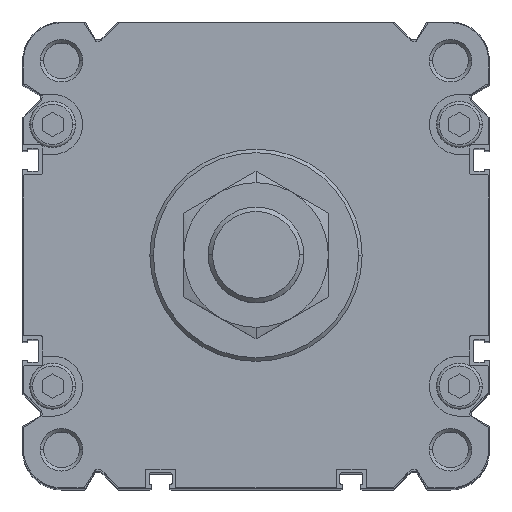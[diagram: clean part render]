
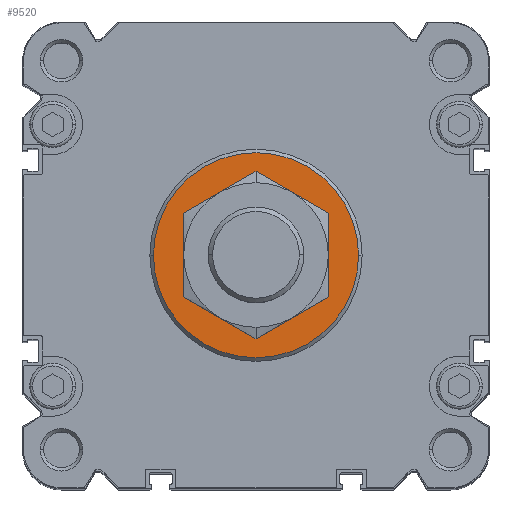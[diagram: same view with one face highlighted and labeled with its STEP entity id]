
A CAD part, top view. The second image highlights one B-rep face of the part: STEP entity #9520.
In plain terms, the highlighted planar face has unit normal (0, 0, 1).
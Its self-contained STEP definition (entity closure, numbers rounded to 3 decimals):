
#229 = AXIS2_PLACEMENT_3D ( 'NONE', #20953, #13654, #20839 ) ;
#1160 = DIRECTION ( 'NONE',  ( 1., 0., 0. ) ) ;
#1916 = VERTEX_POINT ( 'NONE', #8990 ) ;
#2011 = CARTESIAN_POINT ( 'NONE',  ( 0., 0., 4. ) ) ;
#2488 = DIRECTION ( 'NONE',  ( 1., 0., 0. ) ) ;
#2685 = ORIENTED_EDGE ( 'NONE', *, *, #21327, .T. ) ;
#2750 = FACE_OUTER_BOUND ( 'NONE', #5620, .T. ) ;
#3765 = CIRCLE ( 'NONE', #5965, 29. ) ;
#3872 = DIRECTION ( 'NONE',  ( 1., 0., 0. ) ) ;
#5620 = EDGE_LOOP ( 'NONE', ( #16809, #7068 ) ) ;
#5965 = AXIS2_PLACEMENT_3D ( 'NONE', #20957, #21073, #1160 ) ;
#6321 = CARTESIAN_POINT ( 'NONE',  ( 0., -29., 4. ) ) ;
#6407 = EDGE_LOOP ( 'NONE', ( #8555, #2685 ) ) ;
#6768 = AXIS2_PLACEMENT_3D ( 'NONE', #2011, #21601, #3872 ) ;
#7068 = ORIENTED_EDGE ( 'NONE', *, *, #14306, .F. ) ;
#7127 = AXIS2_PLACEMENT_3D ( 'NONE', #6321, #10016, #17123 ) ;
#8555 = ORIENTED_EDGE ( 'NONE', *, *, #10172, .T. ) ;
#8768 = CARTESIAN_POINT ( 'NONE',  ( 16., 0., 4. ) ) ;
#8889 = VERTEX_POINT ( 'NONE', #13837 ) ;
#8990 = CARTESIAN_POINT ( 'NONE',  ( 29., 0., 4. ) ) ;
#9520 = ADVANCED_FACE ( 'NONE', ( #2750, #16882 ), #16996, .T. ) ;
#10016 = DIRECTION ( 'NONE',  ( 0., 0., 1. ) ) ;
#10172 = EDGE_CURVE ( 'NONE', #22524, #17267, #15669, .T. ) ;
#10643 = AXIS2_PLACEMENT_3D ( 'NONE', #16635, #13150, #2488 ) ;
#12712 = CARTESIAN_POINT ( 'NONE',  ( -16., 0., 4. ) ) ;
#13150 = DIRECTION ( 'NONE',  ( 0., 0., -1. ) ) ;
#13155 = EDGE_CURVE ( 'NONE', #1916, #8889, #13615, .T. ) ;
#13615 = CIRCLE ( 'NONE', #229, 29. ) ;
#13654 = DIRECTION ( 'NONE',  ( 0., 0., -1. ) ) ;
#13837 = CARTESIAN_POINT ( 'NONE',  ( -29., 0., 4. ) ) ;
#14306 = EDGE_CURVE ( 'NONE', #8889, #1916, #3765, .T. ) ;
#15669 = CIRCLE ( 'NONE', #6768, 16. ) ;
#16635 = CARTESIAN_POINT ( 'NONE',  ( 0., 0., 4. ) ) ;
#16809 = ORIENTED_EDGE ( 'NONE', *, *, #13155, .F. ) ;
#16882 = FACE_BOUND ( 'NONE', #6407, .T. ) ;
#16996 = PLANE ( 'NONE',  #7127 ) ;
#17123 = DIRECTION ( 'NONE',  ( -1., 0., 0. ) ) ;
#17267 = VERTEX_POINT ( 'NONE', #12712 ) ;
#17325 = CIRCLE ( 'NONE', #10643, 16. ) ;
#20839 = DIRECTION ( 'NONE',  ( 1., 0., 0. ) ) ;
#20953 = CARTESIAN_POINT ( 'NONE',  ( 0., 0., 4. ) ) ;
#20957 = CARTESIAN_POINT ( 'NONE',  ( 0., 0., 4. ) ) ;
#21073 = DIRECTION ( 'NONE',  ( 0., 0., -1. ) ) ;
#21327 = EDGE_CURVE ( 'NONE', #17267, #22524, #17325, .T. ) ;
#21601 = DIRECTION ( 'NONE',  ( 0., 0., -1. ) ) ;
#22524 = VERTEX_POINT ( 'NONE', #8768 ) ;
